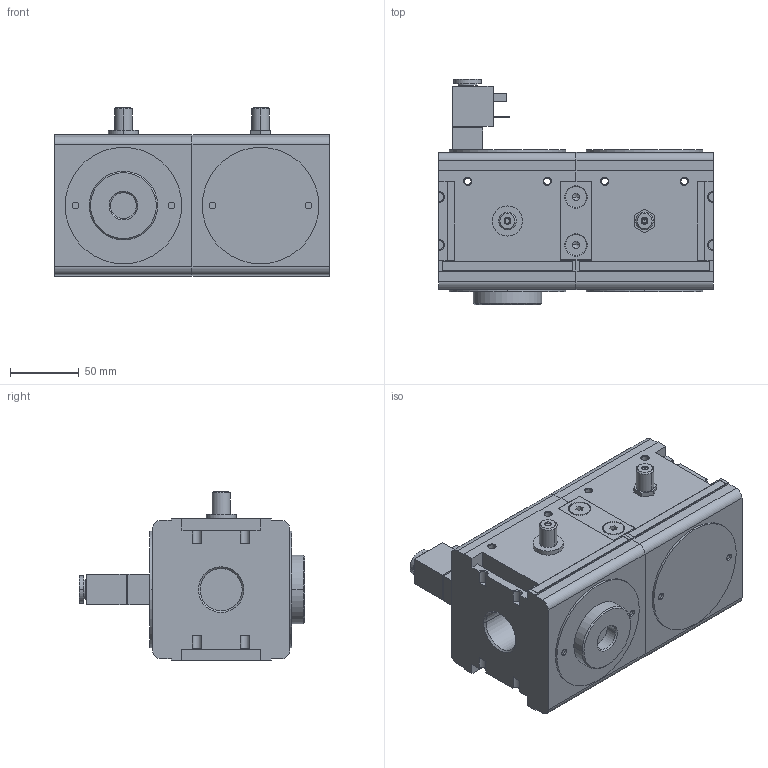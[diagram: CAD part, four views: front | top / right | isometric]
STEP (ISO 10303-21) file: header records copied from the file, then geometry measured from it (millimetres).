
FILE_DESCRIPTION((''),'2;1');
FILE_NAME('0821300962_ASM','2019-01-18T',('PDH2HC'),(''),'CREO PARAMETRIC BY PTC INC, 2016260','CREO PARAMETRIC BY PTC INC, 2016260','');
FILE_SCHEMA(('CONFIG_CONTROL_DESIGN'));
Length unit declared in the file: millimetre
Products named in the file (4): 0821300967; 0821300965; 1827009593; 0821300962_ASM
Assembly tree (3 placements, depth 2):
  0821300962_ASM
    0821300967
    0821300965
    1827009593
Bounding box: 200 x 164.5 x 123.2 mm (x, y, z)
Volume: 2017372 mm3; surface area: 168727.2 mm2
Topology: 4 solids, 5 shells, 468 faces, 1164 edges, 750 vertices
Faces by surface type: plane 258, cylinder 128, cone 76, torus 6
Entity records: 14225 total; most frequent: CARTESIAN_POINT 2741, DIRECTION 2406, ORIENTED_EDGE 2312, EDGE_CURVE 1156, AXIS2_PLACEMENT_3D 807, VECTOR 792, LINE 792, VERTEX_POINT 750
